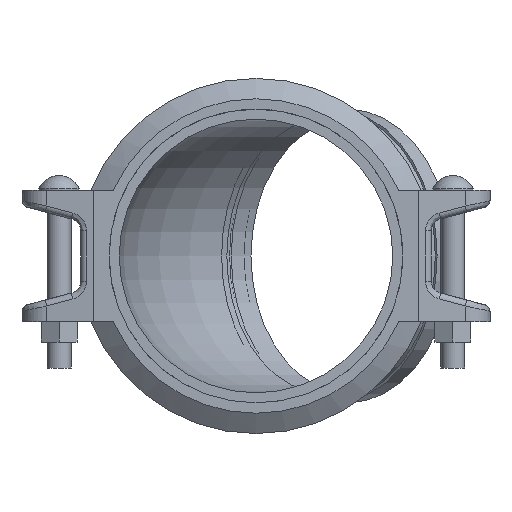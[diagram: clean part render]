
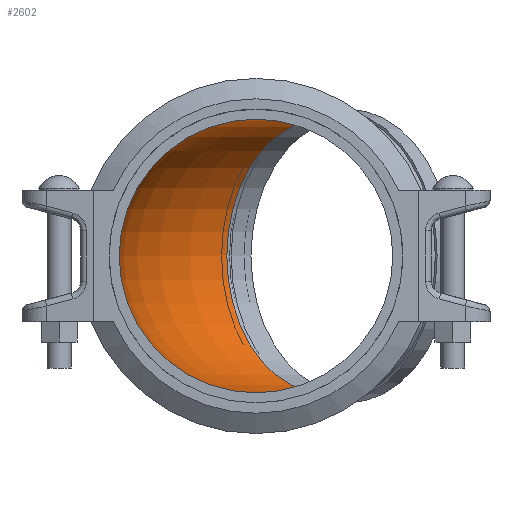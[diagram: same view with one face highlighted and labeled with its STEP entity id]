
A CAD part, left-side view. The second image highlights one B-rep face of the part: STEP entity #2602.
In plain terms, the highlighted toroidal (fillet/blend) face has major radius 214.624 mm and minor radius 127.254 mm.
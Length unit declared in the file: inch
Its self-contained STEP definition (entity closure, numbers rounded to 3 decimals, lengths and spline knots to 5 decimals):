
#110=TOROIDAL_SURFACE('',#2860,8.44975,5.01);
#557=FACE_OUTER_BOUND('',#706,.T.);
#706=EDGE_LOOP('',(#1662,#1663,#1664,#1665,#1666,#1667));
#881=CIRCLE('',#2861,5.01);
#882=CIRCLE('',#2862,5.01);
#883=CIRCLE('',#2863,3.43975);
#884=CIRCLE('',#2864,5.01);
#885=CIRCLE('',#2865,5.01);
#1023=VERTEX_POINT('',#4008);
#1024=VERTEX_POINT('',#4009);
#1025=VERTEX_POINT('',#4012);
#1026=VERTEX_POINT('',#4014);
#1277=EDGE_CURVE('',#1023,#1024,#881,.T.);
#1278=EDGE_CURVE('',#1024,#1023,#882,.T.);
#1279=EDGE_CURVE('',#1023,#1025,#883,.T.);
#1280=EDGE_CURVE('',#1025,#1026,#884,.T.);
#1281=EDGE_CURVE('',#1026,#1025,#885,.T.);
#1662=ORIENTED_EDGE('',*,*,#1277,.T.);
#1663=ORIENTED_EDGE('',*,*,#1278,.T.);
#1664=ORIENTED_EDGE('',*,*,#1279,.T.);
#1665=ORIENTED_EDGE('',*,*,#1280,.T.);
#1666=ORIENTED_EDGE('',*,*,#1281,.T.);
#1667=ORIENTED_EDGE('',*,*,#1279,.F.);
#2602=ADVANCED_FACE('',(#557),#110,.F.);
#2860=AXIS2_PLACEMENT_3D('',#4007,#3202,#3203);
#2861=AXIS2_PLACEMENT_3D('',#4010,#3204,#3205);
#2862=AXIS2_PLACEMENT_3D('',#4011,#3206,#3207);
#2863=AXIS2_PLACEMENT_3D('',#4013,#3208,#3209);
#2864=AXIS2_PLACEMENT_3D('',#4015,#3210,#3211);
#2865=AXIS2_PLACEMENT_3D('',#4016,#3212,#3213);
#3202=DIRECTION('center_axis',(0.,0.,-1.));
#3203=DIRECTION('ref_axis',(-1.,0.,0.));
#3204=DIRECTION('center_axis',(0.,-1.,0.));
#3205=DIRECTION('ref_axis',(1.,0.,0.));
#3206=DIRECTION('center_axis',(0.,-1.,0.));
#3207=DIRECTION('ref_axis',(1.,0.,0.));
#3208=DIRECTION('center_axis',(0.,0.,-1.));
#3209=DIRECTION('ref_axis',(-1.,0.,0.));
#3210=DIRECTION('center_axis',(0.707,0.707,0.));
#3211=DIRECTION('ref_axis',(0.707,-0.707,0.));
#3212=DIRECTION('center_axis',(0.707,0.707,0.));
#3213=DIRECTION('ref_axis',(0.707,-0.707,0.));
#4007=CARTESIAN_POINT('Origin',(8.44975,1.25,0.));
#4008=CARTESIAN_POINT('',(5.01,1.25,0.));
#4009=CARTESIAN_POINT('',(-5.01,1.25,0.));
#4010=CARTESIAN_POINT('Origin',(0.,1.25,0.));
#4011=CARTESIAN_POINT('Origin',(0.,1.25,0.));
#4012=CARTESIAN_POINT('',(6.01748,3.68227,0.));
#4013=CARTESIAN_POINT('Origin',(8.44975,1.25,0.));
#4014=CARTESIAN_POINT('',(-1.06773,10.76748,0.));
#4015=CARTESIAN_POINT('Origin',(2.47487,7.22487,0.));
#4016=CARTESIAN_POINT('Origin',(2.47487,7.22487,0.));
